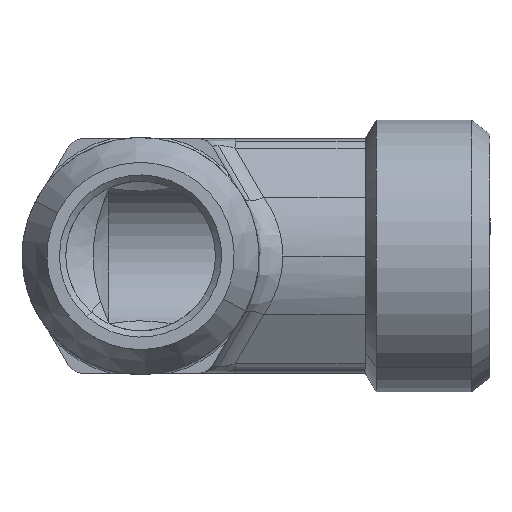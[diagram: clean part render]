
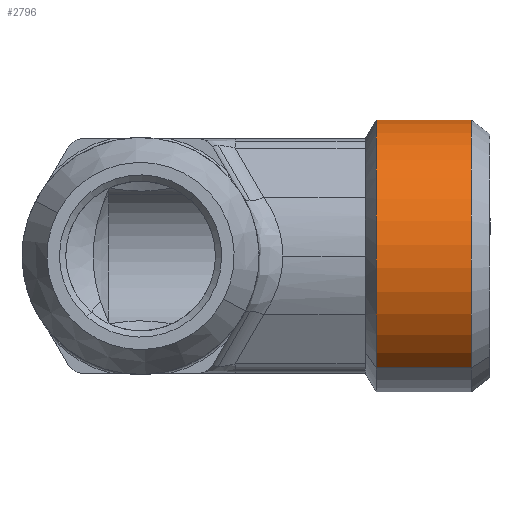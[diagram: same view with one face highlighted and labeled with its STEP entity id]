
A CAD part, front view. The second image highlights one B-rep face of the part: STEP entity #2796.
In plain terms, the highlighted cylindrical face has radius 10.925 mm (diameter 21.85 mm), a partial arc.
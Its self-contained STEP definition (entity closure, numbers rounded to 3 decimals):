
#727=CARTESIAN_POINT('',(-10.74,-8.967,26.507));
#728=VERTEX_POINT('',#727);
#744=CARTESIAN_POINT('',(1.74,8.967,26.507));
#745=VERTEX_POINT('',#744);
#769=CARTESIAN_POINT('',(-10.74,-8.967,18.88));
#770=VERTEX_POINT('',#769);
#812=CARTESIAN_POINT('',(1.74,8.967,18.88));
#813=VERTEX_POINT('',#812);
#820=CARTESIAN_POINT('',(-4.5,0.,18.88));
#821=DIRECTION('',(0.,0.,-1.));
#822=DIRECTION('',(0.571,0.821,0.));
#823=AXIS2_PLACEMENT_3D('',#820,#821,#822);
#824=CIRCLE('',#823,10.925);
#825=EDGE_CURVE('',#813,#770,#824,.T.);
#835=CARTESIAN_POINT('',(1.74,8.967,18.88));
#836=DIRECTION('',(0.0,0.0,1.0));
#837=VECTOR('',#836,7.627);
#838=LINE('',#835,#837);
#839=EDGE_CURVE('',#813,#745,#838,.T.);
#848=CARTESIAN_POINT('',(-10.74,-8.967,26.507));
#849=DIRECTION('',(0.0,0.0,-1.0));
#850=VECTOR('',#849,7.627);
#851=LINE('',#848,#850);
#852=EDGE_CURVE('',#728,#770,#851,.T.);
#2779=CARTESIAN_POINT('',(-4.5,0.,29.5));
#2780=DIRECTION('',(0.,0.,-1.0));
#2781=DIRECTION('',(0.571,0.821,0.));
#2782=AXIS2_PLACEMENT_3D('',#2779,#2780,#2781);
#2783=CYLINDRICAL_SURFACE('',#2782,10.925);
#2784=ORIENTED_EDGE('',*,*,#839,.T.);
#2785=CARTESIAN_POINT('',(-4.5,0.,26.507));
#2786=DIRECTION('',(0.,0.,1.));
#2787=DIRECTION('',(0.571,0.821,0.));
#2788=AXIS2_PLACEMENT_3D('',#2785,#2786,#2787);
#2789=CIRCLE('',#2788,10.925);
#2790=EDGE_CURVE('',#728,#745,#2789,.T.);
#2791=ORIENTED_EDGE('',*,*,#2790,.F.);
#2792=ORIENTED_EDGE('',*,*,#852,.T.);
#2793=ORIENTED_EDGE('',*,*,#825,.F.);
#2794=EDGE_LOOP('',(#2784,#2791,#2792,#2793));
#2795=FACE_OUTER_BOUND('',#2794,.T.);
#2796=ADVANCED_FACE('',(#2795),#2783,.T.);
